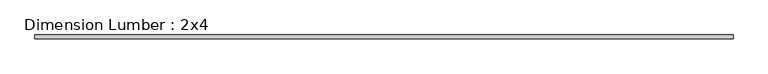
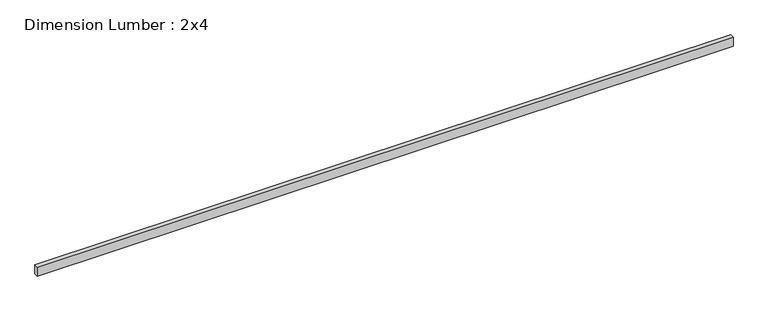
"""IFC4 building model written with IfcOpenShell, lengths in millimetres: beam geometry, Dimension Lumber : 2x4."""

from ifc_helpers import new_model, si_unit, frame, origin, place, context, project, spatial, polyline, outline, extrude, source, transform, mapped, element, save


def dimension_lumber_2x4_c02dea76(model_context):
    return source(origin(), model_context, "Body", "SweptSolid", [
        extrude(outline(polyline([(3279.7375, 19.05), (3279.7375, -19.05), (-3279.7375, -19.05), (-3279.7375, 19.05), (3279.7375, 19.05)])), frame((0.0, 0.0, -44.45), z_axis=(0.0, 0.0, 1.0), x_axis=(1.0, 0.0, 0.0)), (0.0, 0.0, 1.0), 88.9),
    ])


if __name__ == "__main__":
    model = new_model("IFC4")
    model_context = context("Model", 3, world=origin())
    ifc_project = project(units=[si_unit("LENGTHUNIT", "METRE", prefix="MILLI")], contexts=[model_context])
    site = spatial("IfcSite", under=ifc_project)
    building = spatial("IfcBuilding", under=site)
    placement = place(None, origin())
    dimension_lumber_2x4_shape = dimension_lumber_2x4_c02dea76(model_context)
    element("IfcBeam", 1, ObjectType="Dimension Lumber : 2x4", at=placement, inside=building, context=model_context, shape_type="MappedRepresentation", body=[
        mapped(dimension_lumber_2x4_shape, transform((0.0, 0.0, 0.0), x_axis=(1.0, 0.0, 0.0), y_axis=(0.0, 1.0, 0.0), z_axis=(0.0, 0.0, 1.0))),
    ])
    save(model, "model.ifc")
